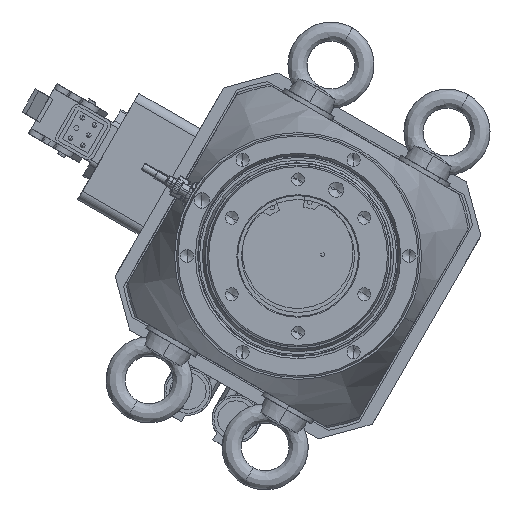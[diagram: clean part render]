
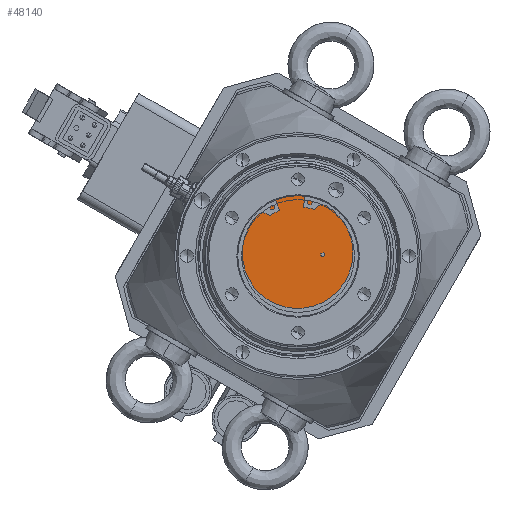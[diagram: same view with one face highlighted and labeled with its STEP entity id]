
A CAD part, front view. The second image highlights one B-rep face of the part: STEP entity #48140.
In plain terms, the highlighted planar face has unit normal (0, -1, 0).
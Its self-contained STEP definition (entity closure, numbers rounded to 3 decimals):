
#3543 = CARTESIAN_POINT ( 'NONE',  ( 33.714, -883.231, -8.94 ) ) ;
#7894 = ORIENTED_EDGE ( 'NONE', *, *, #59326, .T. ) ;
#8415 = AXIS2_PLACEMENT_3D ( 'NONE', #22184, #18298, #61243 ) ;
#9117 = EDGE_LOOP ( 'NONE', ( #46680, #60801 ) ) ;
#10821 = VERTEX_POINT ( 'NONE', #42879 ) ;
#13200 = EDGE_CURVE ( 'NONE', #48636, #10821, #18446, .T. ) ;
#14360 = DIRECTION ( 'NONE',  ( 0., 1., 0. ) ) ;
#15690 = CARTESIAN_POINT ( 'NONE',  ( 45.696, -883.231, -7.843 ) ) ;
#17875 = CIRCLE ( 'NONE', #25059, 31.5 ) ;
#18298 = DIRECTION ( 'NONE',  ( 0., 1., 0. ) ) ;
#18446 = CIRCLE ( 'NONE', #26653, 1. ) ;
#18791 = DIRECTION ( 'NONE',  ( 0., 1., 0. ) ) ;
#19190 = DIRECTION ( 'NONE',  ( -0.866, 0., 0.5 ) ) ;
#20054 = CIRCLE ( 'NONE', #38165, 31.5 ) ;
#22184 = CARTESIAN_POINT ( 'NONE',  ( 46.562, -883.231, -8.343 ) ) ;
#23511 = DIRECTION ( 'NONE',  ( 0., 1., 0. ) ) ;
#24849 = DIRECTION ( 'NONE',  ( -0.866, 0., 0.5 ) ) ;
#25059 = AXIS2_PLACEMENT_3D ( 'NONE', #3543, #23511, #47474 ) ;
#26566 = VERTEX_POINT ( 'NONE', #55986 ) ;
#26653 = AXIS2_PLACEMENT_3D ( 'NONE', #43330, #18791, #24849 ) ;
#28146 = DIRECTION ( 'NONE',  ( 0., 1., 0. ) ) ;
#28316 = EDGE_LOOP ( 'NONE', ( #7894, #46064 ) ) ;
#29008 = CARTESIAN_POINT ( 'NONE',  ( 6.435, -883.231, 6.81 ) ) ;
#29087 = FACE_OUTER_BOUND ( 'NONE', #9117, .T. ) ;
#34139 = PLANE ( 'NONE',  #40330 ) ;
#34749 = CARTESIAN_POINT ( 'NONE',  ( 33.714, -883.231, -8.94 ) ) ;
#36981 = EDGE_CURVE ( 'NONE', #57316, #26566, #20054, .T. ) ;
#38165 = AXIS2_PLACEMENT_3D ( 'NONE', #47241, #28146, #42419 ) ;
#40330 = AXIS2_PLACEMENT_3D ( 'NONE', #34749, #14360, #19190 ) ;
#42419 = DIRECTION ( 'NONE',  ( -0.866, 0., 0.5 ) ) ;
#42879 = CARTESIAN_POINT ( 'NONE',  ( 47.428, -883.231, -8.843 ) ) ;
#43330 = CARTESIAN_POINT ( 'NONE',  ( 46.562, -883.231, -8.343 ) ) ;
#46064 = ORIENTED_EDGE ( 'NONE', *, *, #13200, .T. ) ;
#46680 = ORIENTED_EDGE ( 'NONE', *, *, #50882, .F. ) ;
#47241 = CARTESIAN_POINT ( 'NONE',  ( 33.714, -883.231, -8.94 ) ) ;
#47474 = DIRECTION ( 'NONE',  ( -0.866, 0., 0.5 ) ) ;
#48140 = ADVANCED_FACE ( 'NONE', ( #29087, #48876 ), #34139, .F. ) ;
#48636 = VERTEX_POINT ( 'NONE', #15690 ) ;
#48876 = FACE_BOUND ( 'NONE', #28316, .T. ) ;
#50882 = EDGE_CURVE ( 'NONE', #26566, #57316, #17875, .T. ) ;
#55986 = CARTESIAN_POINT ( 'NONE',  ( 60.994, -883.231, -24.69 ) ) ;
#57255 = CIRCLE ( 'NONE', #8415, 1. ) ;
#57316 = VERTEX_POINT ( 'NONE', #29008 ) ;
#59326 = EDGE_CURVE ( 'NONE', #10821, #48636, #57255, .T. ) ;
#60801 = ORIENTED_EDGE ( 'NONE', *, *, #36981, .F. ) ;
#61243 = DIRECTION ( 'NONE',  ( -0.866, 0., 0.5 ) ) ;
